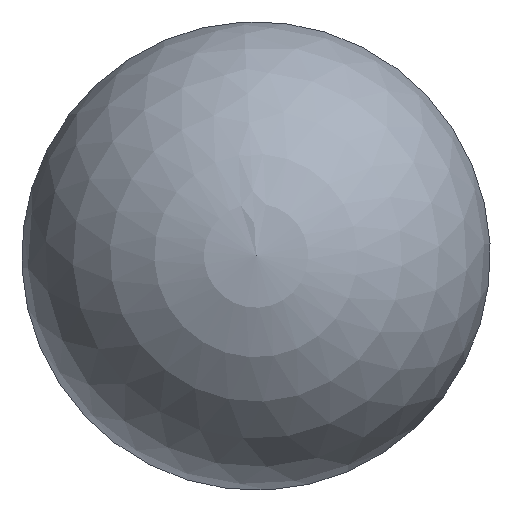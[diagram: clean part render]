
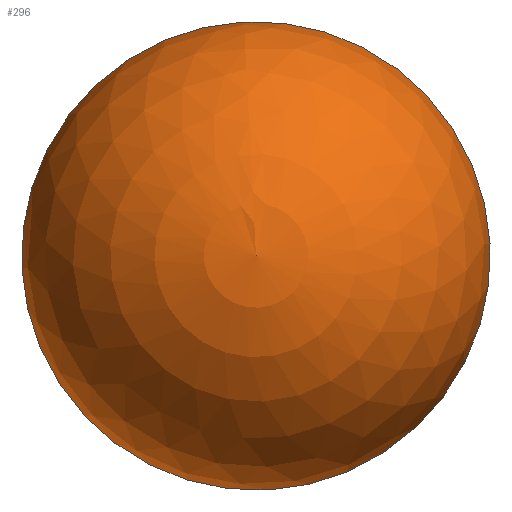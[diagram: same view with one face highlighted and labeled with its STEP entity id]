
A CAD part, top view. The second image highlights one B-rep face of the part: STEP entity #296.
In plain terms, the highlighted spherical face has radius 10 mm.
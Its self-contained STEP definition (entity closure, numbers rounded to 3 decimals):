
#58 = AXIS2_PLACEMENT_3D ( 'NONE', #77, #388, #559 ) ;
#77 = CARTESIAN_POINT ( 'NONE',  ( 0., 0., 109. ) ) ;
#101 = EDGE_CURVE ( 'NONE', #493, #149, #353, .T. ) ;
#149 = VERTEX_POINT ( 'NONE', #555 ) ;
#164 = SPHERICAL_SURFACE ( 'NONE', #300, 10. ) ;
#183 = ORIENTED_EDGE ( 'NONE', *, *, #275, .F. ) ;
#207 = DIRECTION ( 'NONE',  ( 0., 0., 1. ) ) ;
#275 = EDGE_CURVE ( 'NONE', #493, #149, #342, .T. ) ;
#286 = DIRECTION ( 'NONE',  ( -0.052, 0.999, 0. ) ) ;
#296 = ADVANCED_FACE ( 'NONE', ( #395 ), #164, .T. ) ;
#300 = AXIS2_PLACEMENT_3D ( 'NONE', #339, #207, #286 ) ;
#326 = DIRECTION ( 'NONE',  ( 0., 0., 1. ) ) ;
#339 = CARTESIAN_POINT ( 'NONE',  ( 0., 0., 109. ) ) ;
#342 = CIRCLE ( 'NONE', #58, 10. ) ;
#353 = CIRCLE ( 'NONE', #480, 10. ) ;
#367 = ORIENTED_EDGE ( 'NONE', *, *, #101, .T. ) ;
#371 = CARTESIAN_POINT ( 'NONE',  ( 0., 0., 109. ) ) ;
#388 = DIRECTION ( 'NONE',  ( 0., 0., -1. ) ) ;
#395 = FACE_OUTER_BOUND ( 'NONE', #403, .T. ) ;
#403 = EDGE_LOOP ( 'NONE', ( #183, #367 ) ) ;
#480 = AXIS2_PLACEMENT_3D ( 'NONE', #371, #326, #495 ) ;
#493 = VERTEX_POINT ( 'NONE', #558 ) ;
#495 = DIRECTION ( 'NONE',  ( 1., 0., 0. ) ) ;
#555 = CARTESIAN_POINT ( 'NONE',  ( 9.987, 0.518, 109. ) ) ;
#558 = CARTESIAN_POINT ( 'NONE',  ( -9.987, -0.518, 109. ) ) ;
#559 = DIRECTION ( 'NONE',  ( -1., 0., 0. ) ) ;
